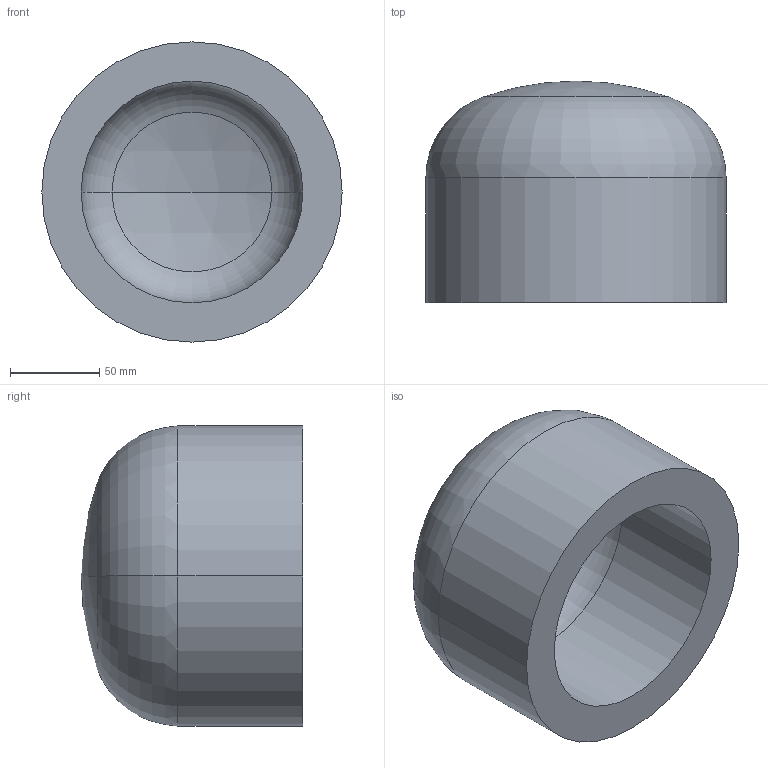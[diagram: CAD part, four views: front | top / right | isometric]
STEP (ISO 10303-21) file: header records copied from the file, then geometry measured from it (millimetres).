
FILE_DESCRIPTION (( 'STEP AP203' ), '1' );
FILE_NAME ('DIN 28013 Korbbogenform_-_Boden DIN 28013 - 168,3 x 70 - I - s=22.step', '2016-07-01T07:42:08', ( '' ), ( '' ), 'SwSTEP 2.0', 'SolidWorks 2013', '' );
FILE_SCHEMA (( 'CONFIG_CONTROL_DESIGN' ));
Length unit declared in the file: millimetre
Products named in the file (1): DIN 28013 Korbbogenform_-_Boden DIN 28013 - 168,3 x 70 - I - s=22
Bounding box: 168.3 x 124.17 x 168.3 mm (x, y, z)
Volume: 1286596.9 mm3; surface area: 128088.6 mm2
Topology: 1 solids, 1 shells, 13 faces, 24 edges, 14 vertices
Faces by surface type: torus 4, cylinder 4, sphere 4, plane 1
Entity records: 407 total; most frequent: DIRECTION 72, CARTESIAN_POINT 52, ORIENTED_EDGE 48, AXIS2_PLACEMENT_3D 34, EDGE_CURVE 24, CIRCLE 20, VERTEX_POINT 14, EDGE_LOOP 14
